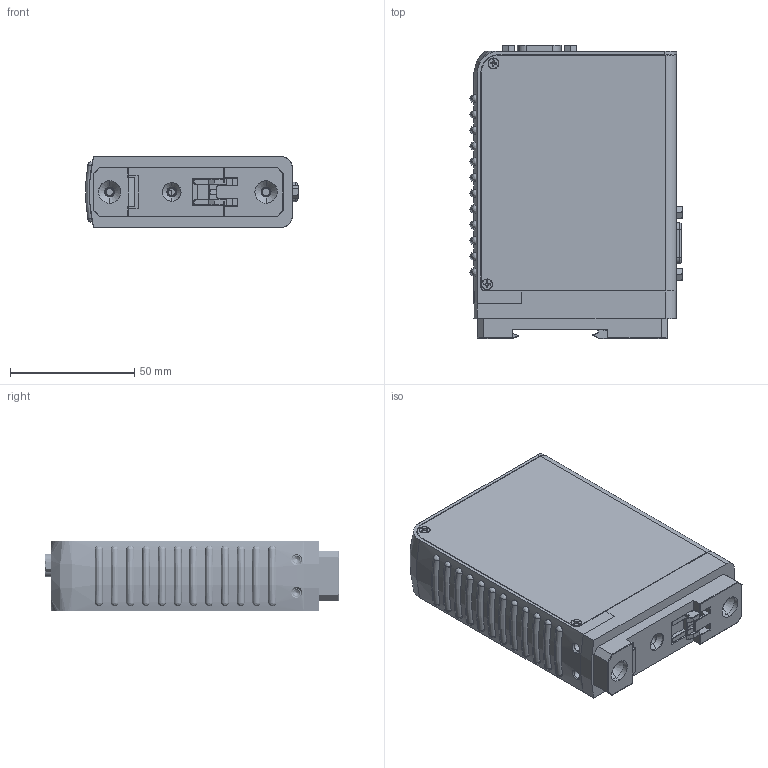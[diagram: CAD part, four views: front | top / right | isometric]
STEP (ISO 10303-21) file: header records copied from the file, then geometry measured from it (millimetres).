
FILE_DESCRIPTION (( 'STEP AP203' ), '1' );
FILE_NAME ('GF120XHT-GX-REMOTE_ELECTRONICS.STEP', '2023-11-13T16:44:45', ( '' ), ( '' ), 'SwSTEP 2.0', 'SolidWorks 2020', '' );
FILE_SCHEMA (( 'CONFIG_CONTROL_DESIGN' ));
Products named in the file (1): GF120XHT-GX-REMOTE_ELECTRONICS
Bounding box: 85.55 x 118.03 x 28.45 mm (x, y, z)
Surface area: 80614.4 mm2 (no closed solid volume)
Topology: 0 solids, 66 shells, 3350 faces, 9021 edges, 5894 vertices
Faces by surface type: plane 1913, cylinder 926, cone 287, bspline 195, torus 25, sphere 4
Entity records: 135989 total; most frequent: CARTESIAN_POINT 54351, ORIENTED_EDGE 17964, DIRECTION 15413, EDGE_CURVE 8984, VERTEX_POINT 5894, LINE 5811, VECTOR 5811, AXIS2_PLACEMENT_3D 4801
